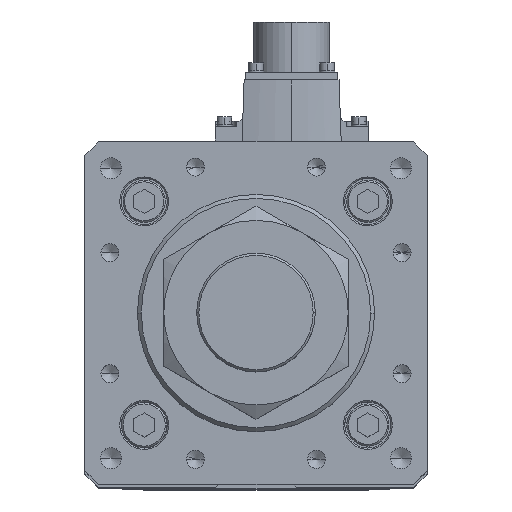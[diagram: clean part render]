
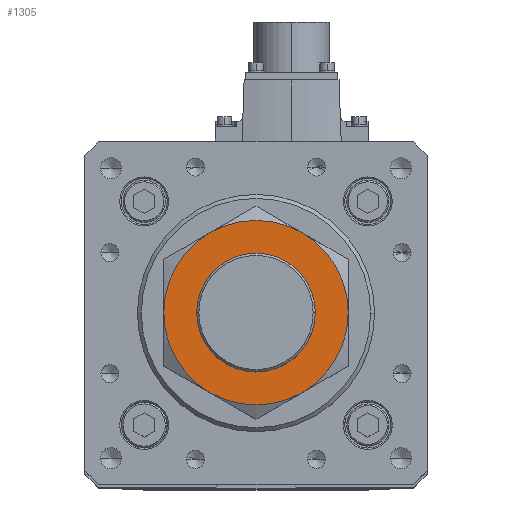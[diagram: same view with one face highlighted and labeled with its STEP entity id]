
A CAD part, top view. The second image highlights one B-rep face of the part: STEP entity #1305.
In plain terms, the highlighted planar face has unit normal (0, 0, 1).
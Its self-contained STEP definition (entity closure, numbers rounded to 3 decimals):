
#127 = CARTESIAN_POINT ( 'NONE',  ( 22.5, 0., 27. ) ) ;
#1305 = ADVANCED_FACE ( 'NONE', ( #37098, #13523 ), #35343, .T. ) ;
#1314 = VERTEX_POINT ( 'NONE', #31881 ) ;
#1515 = EDGE_CURVE ( 'NONE', #3774, #31877, #36607, .T. ) ;
#1565 = ORIENTED_EDGE ( 'NONE', *, *, #32610, .F. ) ;
#1617 = ORIENTED_EDGE ( 'NONE', *, *, #28814, .F. ) ;
#2148 = ORIENTED_EDGE ( 'NONE', *, *, #8050, .F. ) ;
#2684 = DIRECTION ( 'NONE',  ( 1., 0., 0. ) ) ;
#3155 = CARTESIAN_POINT ( 'NONE',  ( 0., 0., 27. ) ) ;
#3774 = VERTEX_POINT ( 'NONE', #13691 ) ;
#4950 = EDGE_CURVE ( 'NONE', #6001, #38178, #9650, .T. ) ;
#5955 = CARTESIAN_POINT ( 'NONE',  ( 0., 0., 27. ) ) ;
#6001 = VERTEX_POINT ( 'NONE', #19687 ) ;
#6064 = DIRECTION ( 'NONE',  ( 0., 0., -1. ) ) ;
#6109 = CIRCLE ( 'NONE', #37515, 35. ) ;
#6270 = DIRECTION ( 'NONE',  ( 0., 0., -1. ) ) ;
#6825 = AXIS2_PLACEMENT_3D ( 'NONE', #30915, #7249, #33991 ) ;
#7038 = AXIS2_PLACEMENT_3D ( 'NONE', #31751, #17365, #14029 ) ;
#7249 = DIRECTION ( 'NONE',  ( 0., 0., 1. ) ) ;
#7340 = VERTEX_POINT ( 'NONE', #10039 ) ;
#7930 = AXIS2_PLACEMENT_3D ( 'NONE', #26643, #6064, #29356 ) ;
#8050 = EDGE_CURVE ( 'NONE', #36858, #21700, #8103, .T. ) ;
#8103 = CIRCLE ( 'NONE', #32413, 22.5 ) ;
#8640 = DIRECTION ( 'NONE',  ( 0., 0., 1. ) ) ;
#9650 = CIRCLE ( 'NONE', #7038, 35. ) ;
#9803 = CARTESIAN_POINT ( 'NONE',  ( 17.5, 30.311, 27. ) ) ;
#9998 = DIRECTION ( 'NONE',  ( 0., 0., -1. ) ) ;
#10039 = CARTESIAN_POINT ( 'NONE',  ( 17.5, -30.311, 27. ) ) ;
#10396 = DIRECTION ( 'NONE',  ( -1., 0., 0. ) ) ;
#11860 = ORIENTED_EDGE ( 'NONE', *, *, #17175, .F. ) ;
#13523 = FACE_BOUND ( 'NONE', #35785, .T. ) ;
#13691 = CARTESIAN_POINT ( 'NONE',  ( -17.5, -30.311, 27. ) ) ;
#14029 = DIRECTION ( 'NONE',  ( -1., 0., 0. ) ) ;
#14299 = CARTESIAN_POINT ( 'NONE',  ( 0., 0., 27. ) ) ;
#14589 = DIRECTION ( 'NONE',  ( 1., 0., 0. ) ) ;
#16470 = CARTESIAN_POINT ( 'NONE',  ( 0., 0., 27. ) ) ;
#17175 = EDGE_CURVE ( 'NONE', #21700, #36858, #35947, .T. ) ;
#17365 = DIRECTION ( 'NONE',  ( 0., 0., -1. ) ) ;
#18137 = CIRCLE ( 'NONE', #32915, 35. ) ;
#18809 = AXIS2_PLACEMENT_3D ( 'NONE', #14299, #32134, #2684 ) ;
#18875 = CIRCLE ( 'NONE', #22411, 35. ) ;
#19044 = AXIS2_PLACEMENT_3D ( 'NONE', #16470, #9998, #10396 ) ;
#19687 = CARTESIAN_POINT ( 'NONE',  ( -17.5, 30.311, 27. ) ) ;
#20715 = EDGE_LOOP ( 'NONE', ( #23872, #33536, #31637, #1565, #32504, #1617 ) ) ;
#20718 = DIRECTION ( 'NONE',  ( 0., 0., -1. ) ) ;
#21700 = VERTEX_POINT ( 'NONE', #127 ) ;
#22411 = AXIS2_PLACEMENT_3D ( 'NONE', #5955, #32451, #37971 ) ;
#23872 = ORIENTED_EDGE ( 'NONE', *, *, #25074, .F. ) ;
#23996 = CARTESIAN_POINT ( 'NONE',  ( 0., 0., 27. ) ) ;
#24241 = DIRECTION ( 'NONE',  ( -1., 0., 0. ) ) ;
#25074 = EDGE_CURVE ( 'NONE', #1314, #7340, #6109, .T. ) ;
#25687 = CARTESIAN_POINT ( 'NONE',  ( -22.5, 0., 27. ) ) ;
#26643 = CARTESIAN_POINT ( 'NONE',  ( 0., 0., 27. ) ) ;
#27778 = CIRCLE ( 'NONE', #7930, 35. ) ;
#28814 = EDGE_CURVE ( 'NONE', #7340, #3774, #18137, .T. ) ;
#29356 = DIRECTION ( 'NONE',  ( -1., 0., 0. ) ) ;
#29775 = DIRECTION ( 'NONE',  ( -1., 0., 0. ) ) ;
#30915 = CARTESIAN_POINT ( 'NONE',  ( 0., 0., 27. ) ) ;
#31637 = ORIENTED_EDGE ( 'NONE', *, *, #4950, .F. ) ;
#31751 = CARTESIAN_POINT ( 'NONE',  ( 0., 0., 27. ) ) ;
#31877 = VERTEX_POINT ( 'NONE', #36886 ) ;
#31881 = CARTESIAN_POINT ( 'NONE',  ( 35., 0., 27. ) ) ;
#32134 = DIRECTION ( 'NONE',  ( 0., 0., 1. ) ) ;
#32413 = AXIS2_PLACEMENT_3D ( 'NONE', #35148, #8640, #14589 ) ;
#32451 = DIRECTION ( 'NONE',  ( 0., 0., -1. ) ) ;
#32504 = ORIENTED_EDGE ( 'NONE', *, *, #1515, .F. ) ;
#32610 = EDGE_CURVE ( 'NONE', #31877, #6001, #18875, .T. ) ;
#32915 = AXIS2_PLACEMENT_3D ( 'NONE', #23996, #6270, #24241 ) ;
#33536 = ORIENTED_EDGE ( 'NONE', *, *, #36050, .F. ) ;
#33991 = DIRECTION ( 'NONE',  ( 1., 0., 0. ) ) ;
#35148 = CARTESIAN_POINT ( 'NONE',  ( 0., 0., 27. ) ) ;
#35343 = PLANE ( 'NONE',  #18809 ) ;
#35785 = EDGE_LOOP ( 'NONE', ( #2148, #11860 ) ) ;
#35947 = CIRCLE ( 'NONE', #6825, 22.5 ) ;
#36050 = EDGE_CURVE ( 'NONE', #38178, #1314, #27778, .T. ) ;
#36607 = CIRCLE ( 'NONE', #19044, 35. ) ;
#36858 = VERTEX_POINT ( 'NONE', #25687 ) ;
#36886 = CARTESIAN_POINT ( 'NONE',  ( -35., 0., 27. ) ) ;
#37098 = FACE_OUTER_BOUND ( 'NONE', #20715, .T. ) ;
#37515 = AXIS2_PLACEMENT_3D ( 'NONE', #3155, #20718, #29775 ) ;
#37971 = DIRECTION ( 'NONE',  ( -1., 0., 0. ) ) ;
#38178 = VERTEX_POINT ( 'NONE', #9803 ) ;
